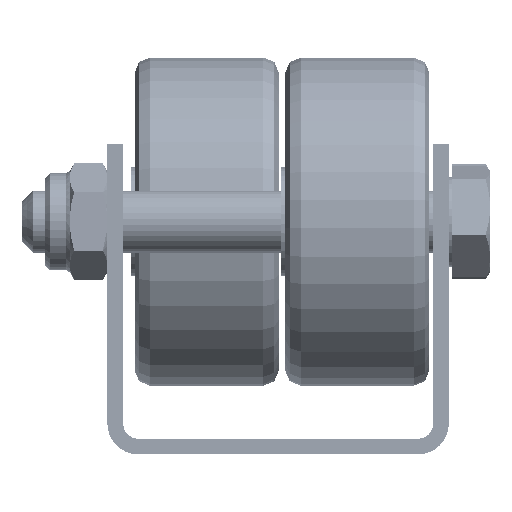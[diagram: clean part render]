
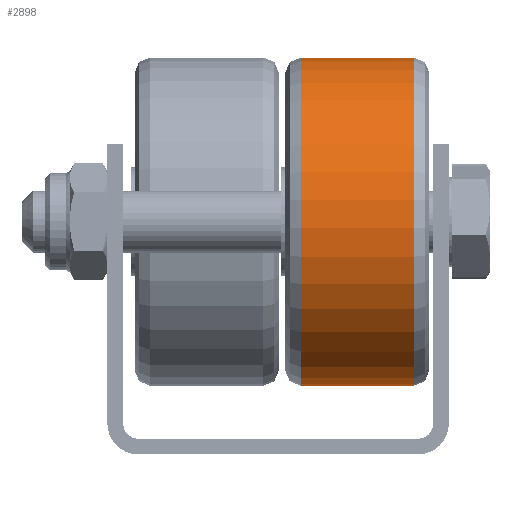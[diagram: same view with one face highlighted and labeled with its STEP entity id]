
A CAD part, front view. The second image highlights one B-rep face of the part: STEP entity #2898.
In plain terms, the highlighted cylindrical face has radius 21.15 mm (diameter 42.3 mm), a full revolution.
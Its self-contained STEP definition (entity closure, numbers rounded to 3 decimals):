
#2898 = ADVANCED_FACE( '', ( #4893, #4894 ), #4895, .T. );
#4893 = FACE_OUTER_BOUND( '', #6462, .T. );
#4894 = FACE_OUTER_BOUND( '', #6463, .T. );
#4895 = CYLINDRICAL_SURFACE( '', #6464, 21.15 );
#6462 = EDGE_LOOP( '', ( #8771 ) );
#6463 = EDGE_LOOP( '', ( #8772 ) );
#6464 = AXIS2_PLACEMENT_3D( '', #8773, #8774, #8775 );
#8771 = ORIENTED_EDGE( '', *, *, #10163, .T. );
#8772 = ORIENTED_EDGE( '', *, *, #9635, .T. );
#8773 = CARTESIAN_POINT( '', ( 0., -9.3, 0. ) );
#8774 = DIRECTION( '', ( 0., -1., 0. ) );
#8775 = DIRECTION( '', ( 0., 0., 1. ) );
#9635 = EDGE_CURVE( '', #10635, #10635, #10636, .T. );
#10163 = EDGE_CURVE( '', #11557, #11557, #11558, .F. );
#10635 = VERTEX_POINT( '', #12192 );
#10636 = CIRCLE( '', #12193, 21.15 );
#11557 = VERTEX_POINT( '', #13379 );
#11558 = CIRCLE( '', #13380, 21.15 );
#12192 = CARTESIAN_POINT( '', ( 0., -7.3, 21.15 ) );
#12193 = AXIS2_PLACEMENT_3D( '', #14327, #14328, #14329 );
#13379 = CARTESIAN_POINT( '', ( 0., 7.3, 21.15 ) );
#13380 = AXIS2_PLACEMENT_3D( '', #15308, #15309, #15310 );
#14327 = CARTESIAN_POINT( '', ( 0., -7.3, 0. ) );
#14328 = DIRECTION( '', ( 0., 1., 0. ) );
#14329 = DIRECTION( '', ( 0., 0., 1. ) );
#15308 = CARTESIAN_POINT( '', ( 0., 7.3, 0. ) );
#15309 = DIRECTION( '', ( 0., 1., 0. ) );
#15310 = DIRECTION( '', ( 0., 0., 1. ) );
